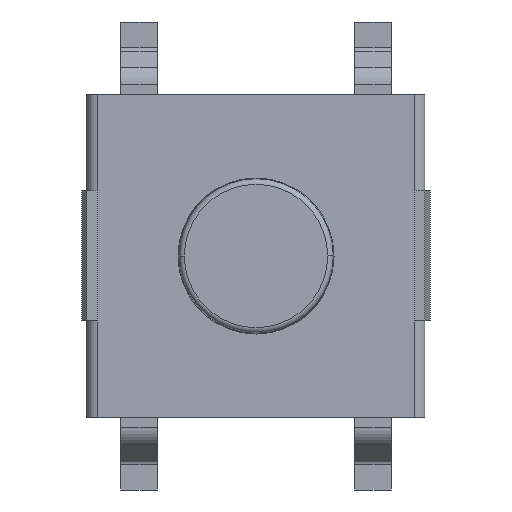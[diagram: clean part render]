
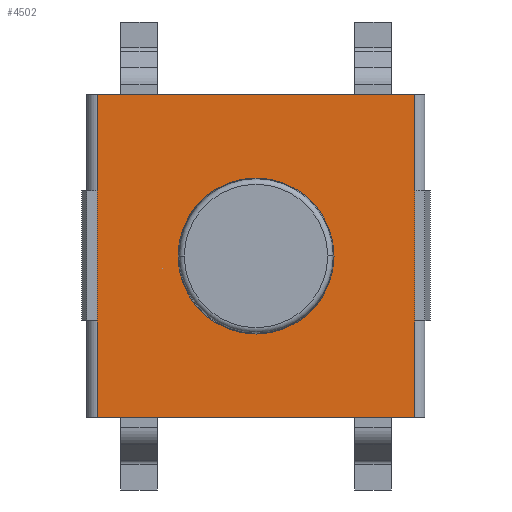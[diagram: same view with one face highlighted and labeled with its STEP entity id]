
A CAD part, front view. The second image highlights one B-rep face of the part: STEP entity #4502.
In plain terms, the highlighted planar face has unit normal (0, -1, 0).
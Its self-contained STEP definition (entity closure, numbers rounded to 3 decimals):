
#3901=CARTESIAN_POINT('',(0.,-0.2,0.));
#3902=DIRECTION('',(0.,-1.,0.));
#3903=DIRECTION('',(1.,0.,0.));
#3904=AXIS2_PLACEMENT_3D('',#3901,#3902,#3903);
#3906=CARTESIAN_POINT('',(0.,-0.2,0.));
#3907=DIRECTION('',(0.,-1.,0.));
#3908=DIRECTION('',(-1.,0.,0.));
#3909=AXIS2_PLACEMENT_3D('',#3906,#3907,#3908);
#3911=DIRECTION('',(-1.,0.,0.));
#3912=VECTOR('',#3911,6.1);
#3913=CARTESIAN_POINT('',(3.05,-0.2,-3.1));
#3914=LINE('',#3913,#3912);
#3915=DIRECTION('',(1.,0.,0.));
#3916=VECTOR('',#3915,6.1);
#3917=CARTESIAN_POINT('',(-3.05,-0.2,3.1));
#3918=LINE('',#3917,#3916);
#3919=DIRECTION('',(0.,0.,-1.));
#3920=VECTOR('',#3919,1.85);
#3921=CARTESIAN_POINT('',(3.05,-0.2,3.1));
#3922=LINE('',#3921,#3920);
#3937=DIRECTION('',(0.,0.,-1.));
#3938=VECTOR('',#3937,1.85);
#3939=CARTESIAN_POINT('',(3.05,-0.2,-1.25));
#3940=LINE('',#3939,#3938);
#3967=DIRECTION('',(0.,0.,-1.));
#3968=VECTOR('',#3967,2.5);
#3969=CARTESIAN_POINT('',(3.05,-0.2,1.25));
#3970=LINE('',#3969,#3968);
#4015=DIRECTION('',(0.,0.,1.));
#4016=VECTOR('',#4015,1.85);
#4017=CARTESIAN_POINT('',(-3.05,-0.2,1.25));
#4018=LINE('',#4017,#4016);
#4033=DIRECTION('',(0.,0.,1.));
#4034=VECTOR('',#4033,1.85);
#4035=CARTESIAN_POINT('',(-3.05,-0.2,-3.1));
#4036=LINE('',#4035,#4034);
#4079=DIRECTION('',(0.,0.,1.));
#4080=VECTOR('',#4079,2.5);
#4081=CARTESIAN_POINT('',(-3.05,-0.2,-1.25));
#4082=LINE('',#4081,#4080);
#4091=CARTESIAN_POINT('',(1.5,-0.2,0.));
#4092=CARTESIAN_POINT('',(-1.5,-0.2,0.));
#4093=VERTEX_POINT('',#4091);
#4094=VERTEX_POINT('',#4092);
#4107=CARTESIAN_POINT('',(-3.05,-0.2,3.1));
#4108=VERTEX_POINT('',#4107);
#4109=CARTESIAN_POINT('',(-3.05,-0.2,-3.1));
#4110=VERTEX_POINT('',#4109);
#4113=CARTESIAN_POINT('',(3.05,-0.2,-3.1));
#4114=VERTEX_POINT('',#4113);
#4115=CARTESIAN_POINT('',(3.05,-0.2,3.1));
#4116=VERTEX_POINT('',#4115);
#4151=CARTESIAN_POINT('',(-3.05,-0.2,1.25));
#4152=VERTEX_POINT('',#4151);
#4153=CARTESIAN_POINT('',(-3.05,-0.2,-1.25));
#4154=VERTEX_POINT('',#4153);
#4155=CARTESIAN_POINT('',(3.05,-0.2,-1.25));
#4156=VERTEX_POINT('',#4155);
#4157=CARTESIAN_POINT('',(3.05,-0.2,1.25));
#4158=VERTEX_POINT('',#4157);
#4476=CARTESIAN_POINT('',(0.,-0.2,0.));
#4477=DIRECTION('',(0.,1.,0.));
#4478=DIRECTION('',(1.,0.,0.));
#4479=AXIS2_PLACEMENT_3D('',#4476,#4477,#4478);
#4480=PLANE('',#4479);
#4482=ORIENTED_EDGE('',*,*,#4481,.T.);
#4484=ORIENTED_EDGE('',*,*,#4483,.T.);
#4486=ORIENTED_EDGE('',*,*,#4485,.T.);
#4488=ORIENTED_EDGE('',*,*,#4487,.T.);
#4490=ORIENTED_EDGE('',*,*,#4489,.T.);
#4492=ORIENTED_EDGE('',*,*,#4491,.T.);
#4494=ORIENTED_EDGE('',*,*,#4493,.T.);
#4495=ORIENTED_EDGE('',*,*,#4294,.T.);
#4496=EDGE_LOOP('',(#4482,#4484,#4486,#4488,#4490,#4492,#4494,#4495));
#4497=FACE_OUTER_BOUND('',#4496,.F.);
#4498=ORIENTED_EDGE('',*,*,#4456,.T.);
#4499=ORIENTED_EDGE('',*,*,#4470,.T.);
#4500=EDGE_LOOP('',(#4498,#4499));
#4501=FACE_BOUND('',#4500,.F.);
#3905=CIRCLE('',#3904,1.5);
#3910=CIRCLE('',#3909,1.5);
#4294=EDGE_CURVE('',#4108,#4116,#3918,.T.);
#4456=EDGE_CURVE('',#4093,#4094,#3905,.T.);
#4470=EDGE_CURVE('',#4094,#4093,#3910,.T.);
#4481=EDGE_CURVE('',#4116,#4158,#3922,.T.);
#4483=EDGE_CURVE('',#4158,#4156,#3970,.T.);
#4485=EDGE_CURVE('',#4156,#4114,#3940,.T.);
#4487=EDGE_CURVE('',#4114,#4110,#3914,.T.);
#4489=EDGE_CURVE('',#4110,#4154,#4036,.T.);
#4491=EDGE_CURVE('',#4154,#4152,#4082,.T.);
#4493=EDGE_CURVE('',#4152,#4108,#4018,.T.);
#4502=ADVANCED_FACE('',(#4497,#4501),#4480,.F.);
